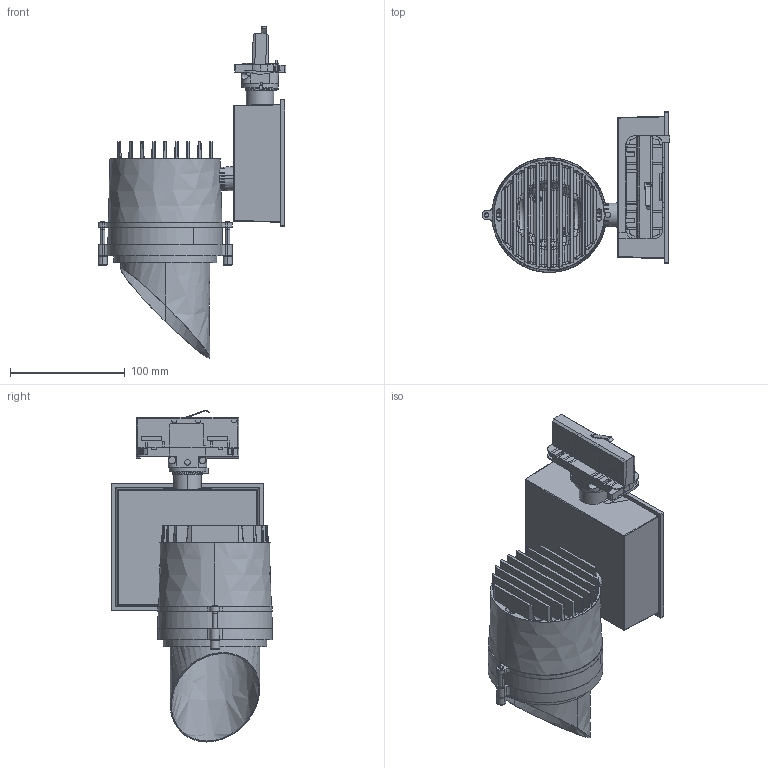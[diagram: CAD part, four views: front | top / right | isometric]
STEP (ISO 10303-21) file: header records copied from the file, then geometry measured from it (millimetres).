
FILE_DESCRIPTION(/* description */ (''),/* implementation_level */ '2;1');
FILE_NAME(/* name */ 'Picto 100 Orizzontale + asymmetric diffusser AD14S0Y__',/* time_stamp */ '2018-02-19T16:23:18+01:00',/* author */ (''),/* organization */ (''),/* preprocessor_version */ 'ST-DEVELOPER v15',/* originating_system */ '',/* authorisation */ '');
FILE_SCHEMA (('CONFIG_CONTROL_DESIGN'));
Length unit declared in the file: millimetre
Products named in the file (1): Document
Bounding box: 163.89 x 140.05 x 289.53 mm (x, y, z)
Volume: 55040 mm3; surface area: 213229.9 mm2
Topology: 6 solids, 759 shells, 879 faces, 4396 edges, 4206 vertices
Faces by surface type: bspline 586, plane 293
Entity records: 60738 total; most frequent: CARTESIAN_POINT 40087, ORIENTED_EDGE 4650, EDGE_CURVE 4331, VERTEX_POINT 4208, B_SPLINE_CURVE_WITH_KNOTS 2269, EDGE_LOOP 913, ADVANCED_FACE 877, FACE_OUTER_BOUND 877
